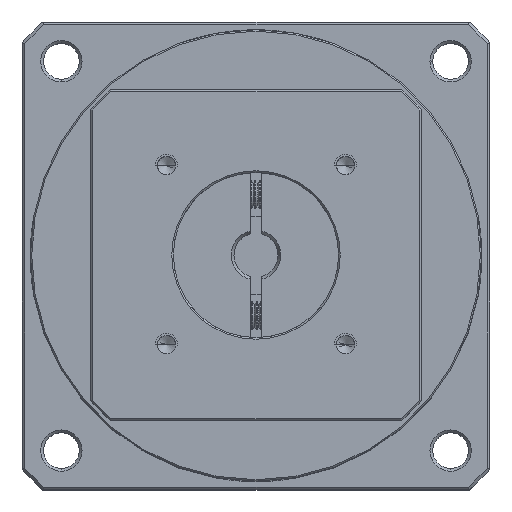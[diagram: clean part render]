
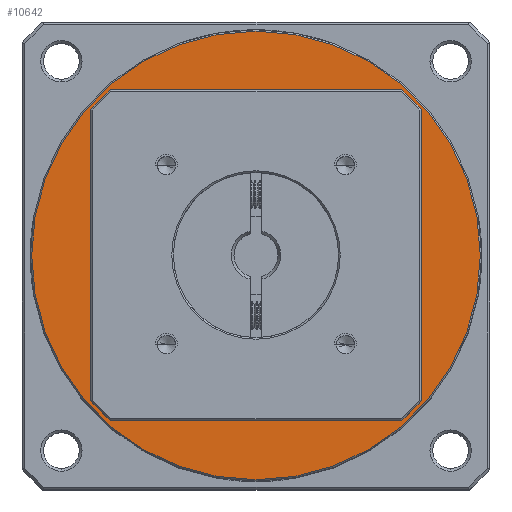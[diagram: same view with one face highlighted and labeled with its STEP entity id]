
A CAD part, top view. The second image highlights one B-rep face of the part: STEP entity #10642.
In plain terms, the highlighted planar face has unit normal (0, 0, 1).
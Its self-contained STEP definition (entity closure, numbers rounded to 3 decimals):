
#1674 = CARTESIAN_POINT ( 'NONE',  ( -33.704, 21.409, -20.099 ) ) ;
#4255 = CARTESIAN_POINT ( 'NONE',  ( -63.704, 62.159, -20.099 ) ) ;
#9034 = EDGE_LOOP ( 'NONE', ( #49836, #55532 ) ) ;
#9613 = AXIS2_PLACEMENT_3D ( 'NONE', #85096, #32483, #94021 ) ;
#10443 = CARTESIAN_POINT ( 'NONE',  ( -63.704, 21.409, -20.099 ) ) ;
#10642 = ADVANCED_FACE ( 'NONE', ( #46050, #113386 ), #31684, .T. ) ;
#11016 = VERTEX_POINT ( 'NONE', #4255 ) ;
#11728 = CIRCLE ( 'NONE', #32713, 30. ) ;
#19294 = DIRECTION ( 'NONE',  ( -1., 0., 0. ) ) ;
#19607 = EDGE_CURVE ( 'NONE', #26527, #42274, #78840, .T. ) ;
#21854 = AXIS2_PLACEMENT_3D ( 'NONE', #25553, #87011, #34373 ) ;
#21944 = CIRCLE ( 'NONE', #21854, 40.75 ) ;
#23006 = ORIENTED_EDGE ( 'NONE', *, *, #106581, .F. ) ;
#23560 = CARTESIAN_POINT ( 'NONE',  ( -63.704, 21.409, -20.099 ) ) ;
#25553 = CARTESIAN_POINT ( 'NONE',  ( -63.704, 21.409, -20.099 ) ) ;
#26527 = VERTEX_POINT ( 'NONE', #1674 ) ;
#27562 = CARTESIAN_POINT ( 'NONE',  ( -63.704, 21.409, -20.099 ) ) ;
#30361 = VERTEX_POINT ( 'NONE', #38881 ) ;
#31158 = EDGE_LOOP ( 'NONE', ( #23006, #108553 ) ) ;
#31684 = PLANE ( 'NONE',  #107333 ) ;
#32416 = DIRECTION ( 'NONE',  ( 1., 0., 0. ) ) ;
#32483 = DIRECTION ( 'NONE',  ( 0., 0., -1. ) ) ;
#32713 = AXIS2_PLACEMENT_3D ( 'NONE', #27562, #89011, #36359 ) ;
#34373 = DIRECTION ( 'NONE',  ( 0., 1., 0. ) ) ;
#36359 = DIRECTION ( 'NONE',  ( -1., 0., 0. ) ) ;
#38881 = CARTESIAN_POINT ( 'NONE',  ( -63.704, -19.341, -20.099 ) ) ;
#42274 = VERTEX_POINT ( 'NONE', #43309 ) ;
#42340 = EDGE_CURVE ( 'NONE', #42274, #26527, #11728, .T. ) ;
#43309 = CARTESIAN_POINT ( 'NONE',  ( -93.704, 21.409, -20.099 ) ) ;
#46050 = FACE_OUTER_BOUND ( 'NONE', #31158, .T. ) ;
#49836 = ORIENTED_EDGE ( 'NONE', *, *, #42340, .T. ) ;
#51672 = EDGE_CURVE ( 'NONE', #30361, #11016, #21944, .T. ) ;
#55532 = ORIENTED_EDGE ( 'NONE', *, *, #19607, .T. ) ;
#71954 = DIRECTION ( 'NONE',  ( 0., 0., -1. ) ) ;
#78840 = CIRCLE ( 'NONE', #91731, 30. ) ;
#85032 = DIRECTION ( 'NONE',  ( 0., 0., 1. ) ) ;
#85096 = CARTESIAN_POINT ( 'NONE',  ( -63.704, 21.409, -20.099 ) ) ;
#87011 = DIRECTION ( 'NONE',  ( 0., 0., -1. ) ) ;
#89011 = DIRECTION ( 'NONE',  ( 0., 0., -1. ) ) ;
#90088 = CIRCLE ( 'NONE', #9613, 40.75 ) ;
#91731 = AXIS2_PLACEMENT_3D ( 'NONE', #10443, #71954, #19294 ) ;
#94021 = DIRECTION ( 'NONE',  ( 0., 1., 0. ) ) ;
#106581 = EDGE_CURVE ( 'NONE', #11016, #30361, #90088, .T. ) ;
#107333 = AXIS2_PLACEMENT_3D ( 'NONE', #23560, #85032, #32416 ) ;
#108553 = ORIENTED_EDGE ( 'NONE', *, *, #51672, .F. ) ;
#113386 = FACE_BOUND ( 'NONE', #9034, .T. ) ;
